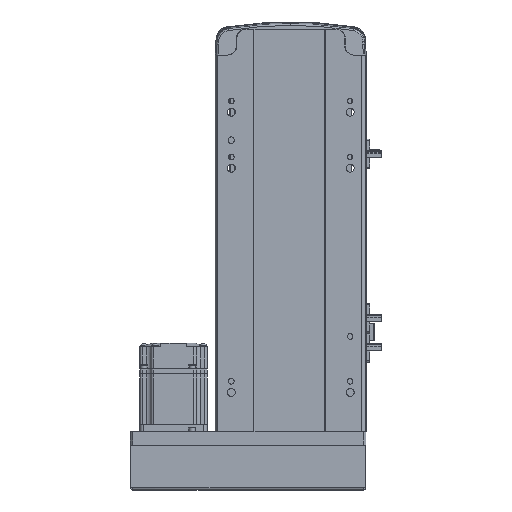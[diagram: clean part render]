
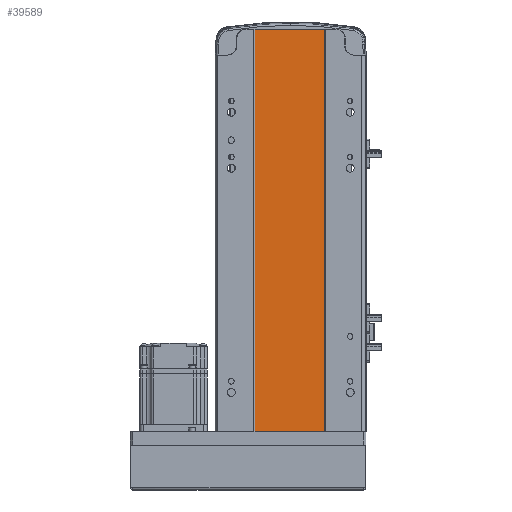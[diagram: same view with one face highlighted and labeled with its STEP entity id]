
A CAD part, front view. The second image highlights one B-rep face of the part: STEP entity #39589.
In plain terms, the highlighted planar face has unit normal (0, -1, 0).
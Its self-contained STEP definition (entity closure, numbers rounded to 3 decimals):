
#60 = PLANE ( 'NONE',  #11992 ) ;
#1152 = DIRECTION ( 'NONE',  ( 1., 0., 0. ) ) ;
#2386 = VERTEX_POINT ( 'NONE', #18336 ) ;
#3238 = ORIENTED_EDGE ( 'NONE', *, *, #45651, .F. ) ;
#7666 = FACE_OUTER_BOUND ( 'NONE', #16519, .T. ) ;
#8068 = CARTESIAN_POINT ( 'NONE',  ( -32., 1., 359. ) ) ;
#9012 = DIRECTION ( 'NONE',  ( -1., 0., 0. ) ) ;
#9847 = VECTOR ( 'NONE', #14024, 1000. ) ;
#11992 = AXIS2_PLACEMENT_3D ( 'NONE', #16939, #43513, #9012 ) ;
#12812 = EDGE_CURVE ( 'NONE', #32024, #19555, #25388, .T. ) ;
#14024 = DIRECTION ( 'NONE',  ( 0., 0., -1. ) ) ;
#15216 = VECTOR ( 'NONE', #1152, 1000. ) ;
#16372 = EDGE_CURVE ( 'NONE', #20745, #2386, #44119, .T. ) ;
#16519 = EDGE_LOOP ( 'NONE', ( #45300, #3238, #47885, #33003 ) ) ;
#16939 = CARTESIAN_POINT ( 'NONE',  ( -32., 1., 359. ) ) ;
#18336 = CARTESIAN_POINT ( 'NONE',  ( 30., 1., 359. ) ) ;
#18765 = CARTESIAN_POINT ( 'NONE',  ( -32., 1., 0. ) ) ;
#19555 = VERTEX_POINT ( 'NONE', #44179 ) ;
#20745 = VERTEX_POINT ( 'NONE', #8068 ) ;
#23298 = DIRECTION ( 'NONE',  ( 0., 0., -1. ) ) ;
#23692 = VECTOR ( 'NONE', #23298, 1000. ) ;
#25388 = LINE ( 'NONE', #18765, #15216 ) ;
#29795 = LINE ( 'NONE', #49255, #23692 ) ;
#32024 = VERTEX_POINT ( 'NONE', #37951 ) ;
#33003 = ORIENTED_EDGE ( 'NONE', *, *, #52947, .T. ) ;
#37951 = CARTESIAN_POINT ( 'NONE',  ( -32., 1., 0. ) ) ;
#38182 = CARTESIAN_POINT ( 'NONE',  ( -32., 1., 359. ) ) ;
#39589 = ADVANCED_FACE ( 'NONE', ( #7666 ), #60, .F. ) ;
#40022 = CARTESIAN_POINT ( 'NONE',  ( -32., 1., 359. ) ) ;
#43513 = DIRECTION ( 'NONE',  ( 0., 1., 0. ) ) ;
#44119 = LINE ( 'NONE', #38182, #50893 ) ;
#44179 = CARTESIAN_POINT ( 'NONE',  ( 30., 1., 0. ) ) ;
#45300 = ORIENTED_EDGE ( 'NONE', *, *, #12812, .T. ) ;
#45651 = EDGE_CURVE ( 'NONE', #2386, #19555, #29795, .T. ) ;
#47885 = ORIENTED_EDGE ( 'NONE', *, *, #16372, .F. ) ;
#49255 = CARTESIAN_POINT ( 'NONE',  ( 30., 1., 359. ) ) ;
#50893 = VECTOR ( 'NONE', #56024, 1000. ) ;
#51383 = LINE ( 'NONE', #40022, #9847 ) ;
#52947 = EDGE_CURVE ( 'NONE', #20745, #32024, #51383, .T. ) ;
#56024 = DIRECTION ( 'NONE',  ( 1., 0., 0. ) ) ;
